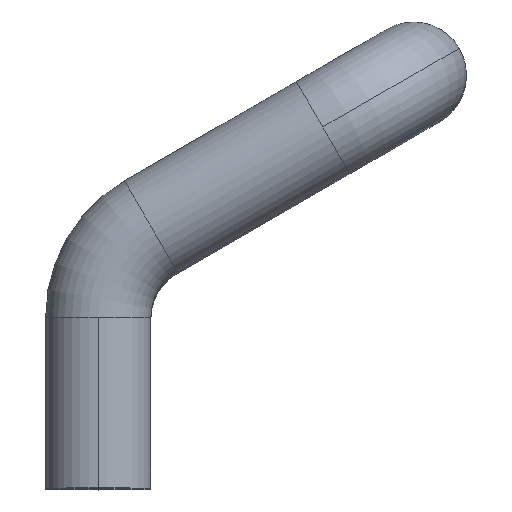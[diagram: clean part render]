
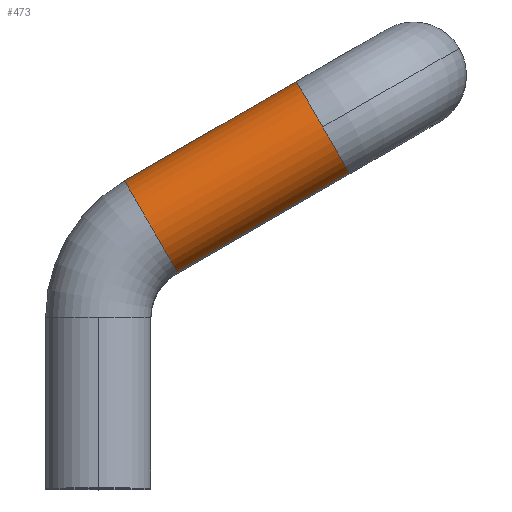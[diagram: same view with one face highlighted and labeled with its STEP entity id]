
A CAD part, top view. The second image highlights one B-rep face of the part: STEP entity #473.
In plain terms, the highlighted cylindrical face has radius 5 mm (diameter 10 mm), a partial arc.
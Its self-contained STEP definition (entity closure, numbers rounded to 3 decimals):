
#3 = DIRECTION ( 'NONE',  ( 0., 0., 1. ) ) ;
#24 = EDGE_CURVE ( 'NONE', #139, #713, #533, .T. ) ;
#44 = FACE_OUTER_BOUND ( 'NONE', #400, .T. ) ;
#53 = VERTEX_POINT ( 'NONE', #340 ) ;
#69 = DIRECTION ( 'NONE',  ( 0., 0., 1. ) ) ;
#70 = ORIENTED_EDGE ( 'NONE', *, *, #342, .F. ) ;
#139 = VERTEX_POINT ( 'NONE', #258 ) ;
#141 = DIRECTION ( 'NONE',  ( 0.866, 0.5, 0. ) ) ;
#156 = VECTOR ( 'NONE', #482, 1000. ) ;
#210 = CARTESIAN_POINT ( 'NONE',  ( 7.5, 20.557, 0. ) ) ;
#245 = DIRECTION ( 'NONE',  ( 0., 0., 1. ) ) ;
#258 = CARTESIAN_POINT ( 'NONE',  ( 21.34, 34.321, 5. ) ) ;
#265 = ORIENTED_EDGE ( 'NONE', *, *, #449, .T. ) ;
#271 = ORIENTED_EDGE ( 'NONE', *, *, #509, .F. ) ;
#280 = VECTOR ( 'NONE', #453, 1000. ) ;
#284 = VERTEX_POINT ( 'NONE', #574 ) ;
#295 = CARTESIAN_POINT ( 'NONE',  ( 2.5, 29.217, 0. ) ) ;
#340 = CARTESIAN_POINT ( 'NONE',  ( 7.5, 20.557, 0. ) ) ;
#342 = EDGE_CURVE ( 'NONE', #284, #139, #528, .T. ) ;
#377 = DIRECTION ( 'NONE',  ( 0.866, 0.5, 0. ) ) ;
#380 = EDGE_CURVE ( 'NONE', #53, #713, #898, .T. ) ;
#400 = EDGE_LOOP ( 'NONE', ( #265, #739, #575, #70, #271 ) ) ;
#413 = AXIS2_PLACEMENT_3D ( 'NONE', #695, #141, #69 ) ;
#428 = AXIS2_PLACEMENT_3D ( 'NONE', #776, #481, #3 ) ;
#448 = CARTESIAN_POINT ( 'NONE',  ( 5., 24.887, 0. ) ) ;
#449 = EDGE_CURVE ( 'NONE', #727, #53, #606, .T. ) ;
#453 = DIRECTION ( 'NONE',  ( 0.866, 0.5, 0. ) ) ;
#463 = LINE ( 'NONE', #674, #280 ) ;
#473 = ADVANCED_FACE ( 'NONE', ( #44 ), #744, .T. ) ;
#481 = DIRECTION ( 'NONE',  ( 0.866, 0.5, 0. ) ) ;
#482 = DIRECTION ( 'NONE',  ( 0.866, 0.5, 0. ) ) ;
#483 = AXIS2_PLACEMENT_3D ( 'NONE', #448, #377, #245 ) ;
#509 = EDGE_CURVE ( 'NONE', #727, #284, #463, .T. ) ;
#528 = CIRCLE ( 'NONE', #413, 5. ) ;
#533 = CIRCLE ( 'NONE', #428, 5. ) ;
#541 = CARTESIAN_POINT ( 'NONE',  ( 5., 24.887, 0. ) ) ;
#574 = CARTESIAN_POINT ( 'NONE',  ( 18.84, 38.651, 0. ) ) ;
#575 = ORIENTED_EDGE ( 'NONE', *, *, #24, .F. ) ;
#606 = CIRCLE ( 'NONE', #483, 5. ) ;
#618 = DIRECTION ( 'NONE',  ( -0.5, 0.866, 0. ) ) ;
#674 = CARTESIAN_POINT ( 'NONE',  ( 2.5, 29.217, 0. ) ) ;
#686 = DIRECTION ( 'NONE',  ( 0.866, 0.5, 0. ) ) ;
#695 = CARTESIAN_POINT ( 'NONE',  ( 21.34, 34.321, 0. ) ) ;
#697 = CARTESIAN_POINT ( 'NONE',  ( 23.84, 29.99, 0. ) ) ;
#713 = VERTEX_POINT ( 'NONE', #697 ) ;
#727 = VERTEX_POINT ( 'NONE', #295 ) ;
#739 = ORIENTED_EDGE ( 'NONE', *, *, #380, .T. ) ;
#744 = CYLINDRICAL_SURFACE ( 'NONE', #800, 5. ) ;
#776 = CARTESIAN_POINT ( 'NONE',  ( 21.34, 34.321, 0. ) ) ;
#800 = AXIS2_PLACEMENT_3D ( 'NONE', #541, #686, #618 ) ;
#898 = LINE ( 'NONE', #210, #156 ) ;
